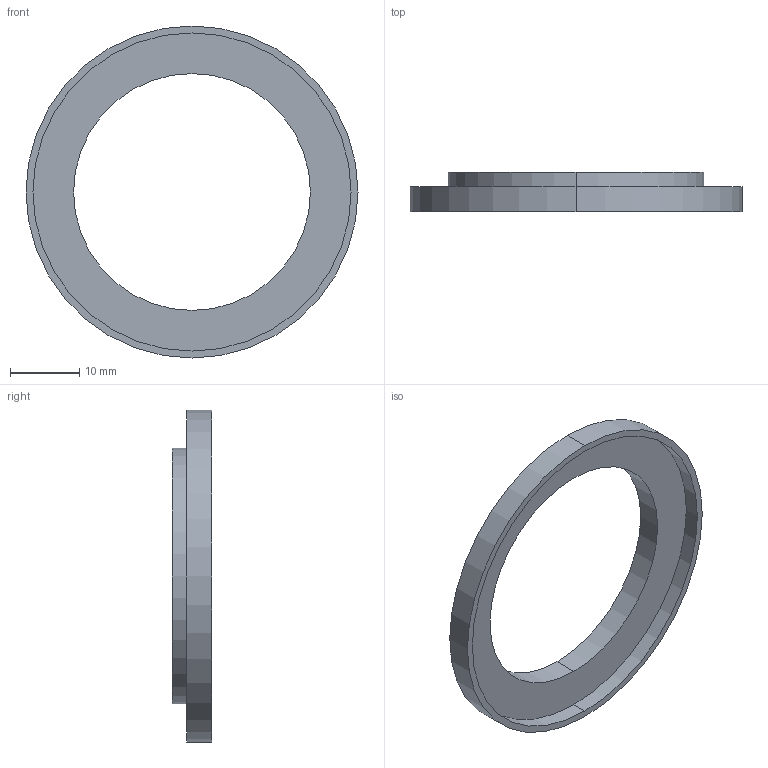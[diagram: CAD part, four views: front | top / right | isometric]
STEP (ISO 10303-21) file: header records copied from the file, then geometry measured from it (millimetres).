
FILE_DESCRIPTION (( 'STEP AP214' ), '1' );
FILE_NAME ('SU37-46.STEP', '2019-04-03T14:56:39', ( '' ), ( '' ), 'SwSTEP 2.0', 'SolidWorks 2019', '' );
FILE_SCHEMA (( 'AUTOMOTIVE_DESIGN' ));
Length unit declared in the file: millimetre
Products named in the file (1): SU37-46
Bounding box: 48 x 5.7 x 48 mm (x, y, z)
Volume: 1869.2 mm3; surface area: 3260.5 mm2
Topology: 1 solids, 1 shells, 12 faces, 24 edges, 16 vertices
Faces by surface type: cylinder 8, plane 4
Entity records: 362 total; most frequent: DIRECTION 66, CARTESIAN_POINT 53, ORIENTED_EDGE 48, AXIS2_PLACEMENT_3D 29, EDGE_CURVE 24, CIRCLE 16, EDGE_LOOP 16, VERTEX_POINT 16
